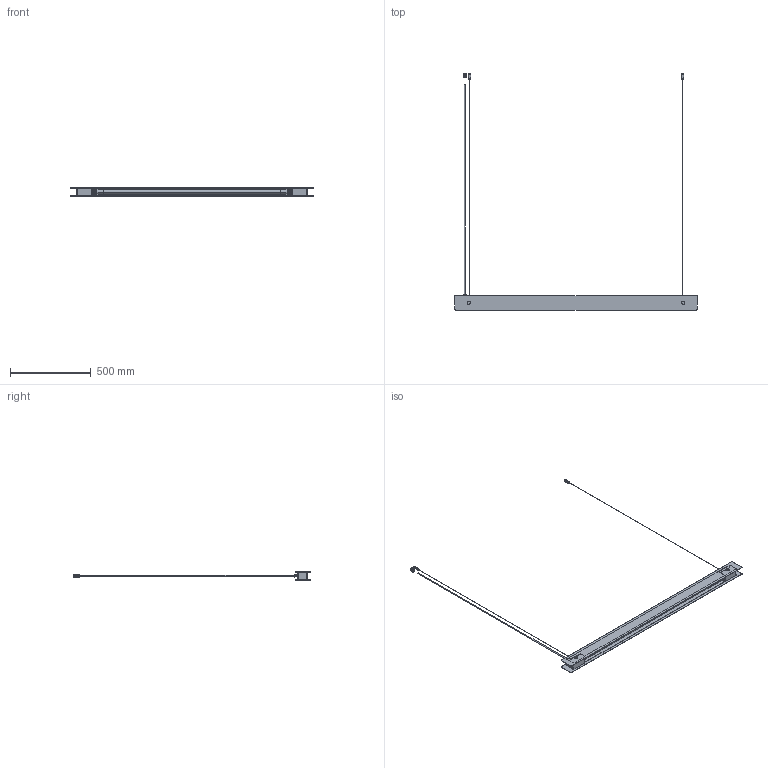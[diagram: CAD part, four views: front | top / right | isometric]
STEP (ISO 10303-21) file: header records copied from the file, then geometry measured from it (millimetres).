
FILE_DESCRIPTION (( 'STEP AP203' ), '1' );
FILE_NAME ('10 54014 FR 2023F019 Bridge pendant.STEP', '2024-05-30T12:33:23', ( '' ), ( '' ), 'SwSTEP 2.0', 'SolidWorks 2022', '' );
FILE_SCHEMA (( 'CONFIG_CONTROL_DESIGN' ));
Length unit declared in the file: millimetre
Products named in the file (17): 31 53052 G13 Socket, end mount BJB 26.422.1010.50; All locking washers_38483 Locking washer M10xØ10,5xØ14,5x1,5; Cable dummy - straight - 2_1300mm; 18 54393 Side panel 1500x90x2; 18 54392 Reflector bracket for Bridge pendant; All threaded tubes_380053 Threaded tube M10 x 1,0 x 15 Ø7,5; 22 54394 Wood block 100x60x48; 280175 Fingerscrew ø20x4 with M10x1,0, 15mm thread; 38326 Strain relief black, M10x1, ø17H20; 10 54014 FR 2023F019 Bridge pendant; All steel wire_114530 Wire Ø1,5mm 2m with ball; 74479 G13 Philips Master LEDtube 1200mm HO 12,5W 3000K; 22069 Extension tube, ø12x45; 38560 Woodscrew ø4x30 Hexalobular socket, pan head, elzinc blue BN20220; 30 52937 Wire holder set, black anodized; All micro cable and steel wire holder_16 51743 Micro cable holder, black, assembly
Assembly tree (27 placements, depth 2):
  10 54014 FR 2023F019 Bridge pendant
    18 54392 Reflector bracket for Bridge pendant
    18 54393 Side panel 1500x90x2  x2
    22 54394 Wood block 100x60x48  x2
    280175 Fingerscrew ø20x4 with M10x1,0, 15mm thread  x4
    31 53052 G13 Socket, end mount BJB 26.422.1010.50  x2
    74479 G13 Philips Master LEDtube 1200mm HO 12,5W 3000K
    22069 Extension tube, ø12x45  x2
    38560 Woodscrew ø4x30 Hexalobular socket, pan head, elzinc blue BN20220  x4
    All threaded tubes_380053 Threaded tube M10 x 1,0 x 15 Ø7,5
    38326 Strain relief black, M10x1, ø17H20
    All locking washers_38483 Locking washer M10xØ10,5xØ14,5x1,5
    All steel wire_114530 Wire Ø1,5mm 2m with ball
    All steel wire_114530 Wire Ø1,5mm 2m with ball
    Cable dummy - straight - 2_1300mm
    All micro cable and steel wire holder_16 51743 Micro cable holder, black, assembly
    30 52937 Wire holder set, black anodized  x2
Bounding box: 1500 x 1462 x 60 mm (x, y, z)
Volume: 2177719.3 mm3; surface area: 1189966.9 mm2
Topology: 59 solids, 59 shells, 3597 faces, 8503 edges, 5046 vertices
Faces by surface type: bspline 1504, cylinder 1028, plane 909, cone 120, torus 32, sphere 4
Entity records: 113727 total; most frequent: CARTESIAN_POINT 69625, ORIENTED_EDGE 12014, EDGE_CURVE 6007, DIRECTION 4915, VERTEX_POINT 3414, EDGE_LOOP 2787, ADVANCED_FACE 2696, FACE_OUTER_BOUND 2696
